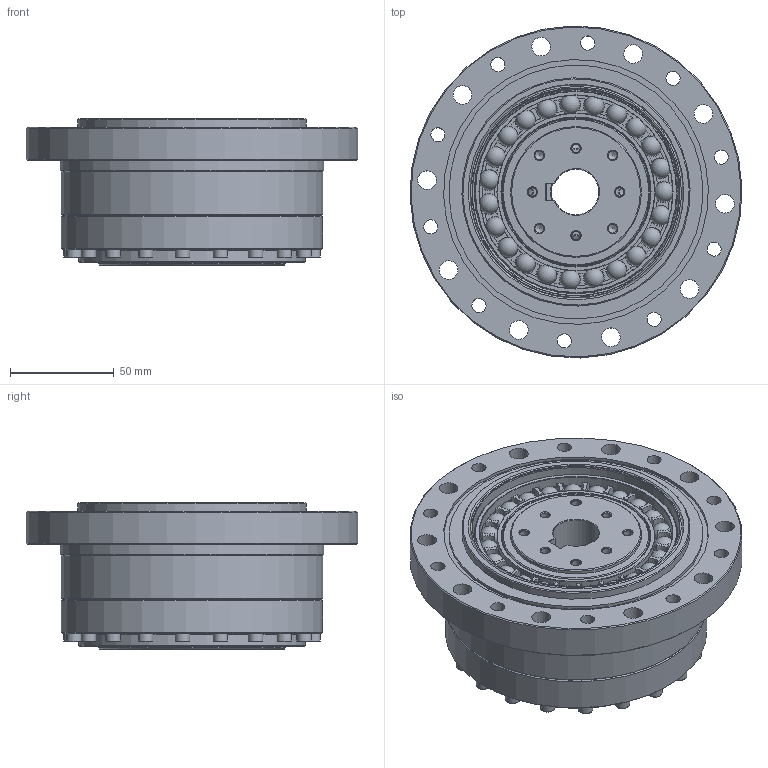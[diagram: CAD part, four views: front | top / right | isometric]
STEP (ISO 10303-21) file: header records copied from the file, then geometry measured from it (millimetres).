
FILE_DESCRIPTION(/* description */ (''),/* implementation_level */ '2;1');
FILE_NAME(/* name */ 'FSG-40-XX-U-I-22.stp',/* time_stamp */ '2025-02-24T10:49:29+08:00',/* author */ (''),/* organization */ (''),/* preprocessor_version */ 'ST-DEVELOPER v16.7',/* originating_system */ 'SIEMENS PLM Software NX 12.0',/* authorisation */ '');
FILE_SCHEMA (('AUTOMOTIVE_DESIGN { 1 0 10303 214 3 1 1 1 }'));
Length unit declared in the file: millimetre
Products named in the file (18): TC-90x105x6; EB719815-40KCH-46; EB719815-40KCH-04; EB719815-40KCH-02; EB719815-40KCH-01; EB7310015-40KC369; 柔轮LSS-40366; GB-T70.1-2000,M10x25; GB-T70.1-2000,M4x25; O型密封圈109.6-104.4-1.5; 柔轮垫块LSS-40; 发生器FSG-40-XXDL直径22w8_stp; 刚轮FSG-40_stp; 柔轮FSG-40_stp; 交叉轴承LSS-40; EB719815-40KCH_stp; 40rl; FSG-40-XX-U-I_孔径22W8__stp
Assembly tree (43 placements, depth 3):
  FSG-40-XX-U-I_孔径22W8__stp
    40rl
      柔轮LSS-40366
      EB7310015-40KC369
    柔轮FSG-40_stp
    刚轮FSG-40_stp
    EB719815-40KCH_stp
      EB719815-40KCH-01
      EB719815-40KCH-02
      EB719815-40KCH-04
      EB719815-40KCH-46
    交叉轴承LSS-40
      TC-90x105x6
    发生器FSG-40-XXDL直径22w8_stp
    柔轮垫块LSS-40
    O型密封圈109.6-104.4-1.5
    GB-T70.1-2000,M4x25  x20
    GB-T70.1-2000,M10x25  x8
Bounding box: 159.95 x 159.95 x 70.5 mm (x, y, z)
Volume: 612670 mm3; surface area: 267948.4 mm2
Topology: 62 solids, 62 shells, 1367 faces, 2909 edges, 1679 vertices
Faces by surface type: plane 527, cone 425, cylinder 267, torus 125, sphere 23
Full cylindrical faces by diameter (mm): 2.5 x2, 3.3 x20, 3.838 x20, 4.2 x8, 4.5 x20, 5 x4, 6.8 x10, 7 x20, 8.5 x16, 9 x10, 9.732 x8, 11 x16, 16 x8, 24 x2, 32 x5, 32.6 x2, 63 x1, 64 x1, 66 x1, 68.8 x1, 71.12 x2, 76.14 x2, 78.9 x1, 81.2 x1, 86 x1, 87 x1, 87.215 x1, 89 x1, 90 x2, 90.1 x1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
Entity records: 19282 total; most frequent: CARTESIAN_POINT 4351, DIRECTION 3241, ORIENTED_EDGE 2272, AXIS2_PLACEMENT_3D 1504, EDGE_LOOP 1195, EDGE_CURVE 1136, FACE_BOUND 947, VERTEX_POINT 910
